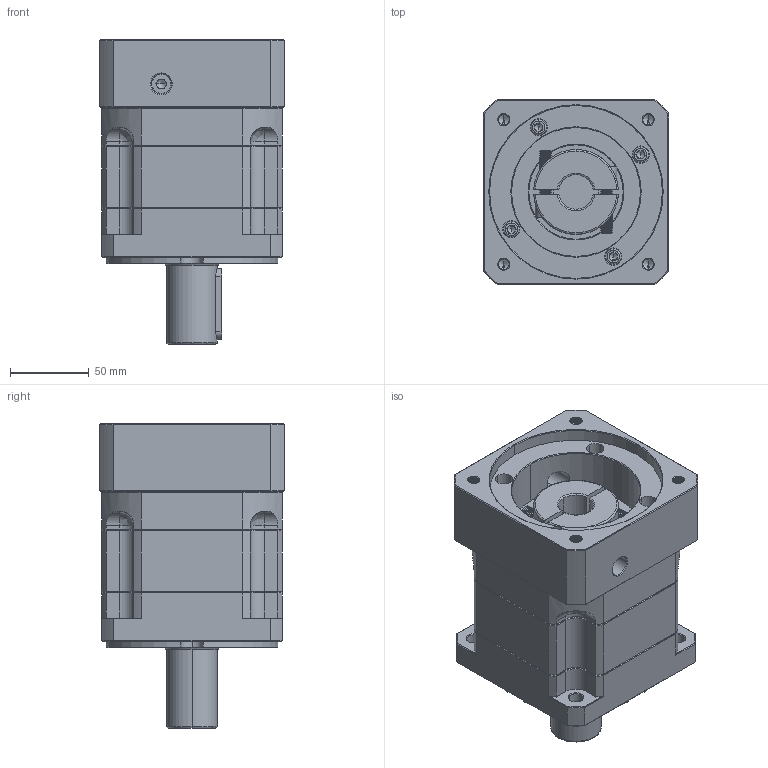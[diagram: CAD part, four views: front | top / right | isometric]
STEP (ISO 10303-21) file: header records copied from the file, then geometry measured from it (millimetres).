
FILE_DESCRIPTION (( 'STEP AP214' ), '1' );
FILE_NAME ('ZB115A-D32-L1-P2-22-110-130-M8.step', '2023-08-26T06:28:28', ( '' ), ( '' ), 'SwSTEP 2.0', 'SolidWorks 2016', '' );
FILE_SCHEMA (( 'AUTOMOTIVE_DESIGN' ));
Length unit declared in the file: millimetre
Products named in the file (1): ZB115A-D32-L1-P2-22-110-130-M8
Bounding box: 118 x 118 x 193.5 mm (x, y, z)
Volume: 1561087.5 mm3; surface area: 170659.6 mm2
Topology: 6 solids, 6 shells, 2397 faces, 6287 edges, 3990 vertices
Faces by surface type: plane 1144, cylinder 441, bspline 423, cone 369, torus 20
Entity records: 129462 total; most frequent: CARTESIAN_POINT 47646, ORIENTED_EDGE 12506, DIRECTION 9907, EDGE_CURVE 6253, VECTOR 3999, LINE 3999, VERTEX_POINT 3990, AXIS2_PLACEMENT_3D 2954
